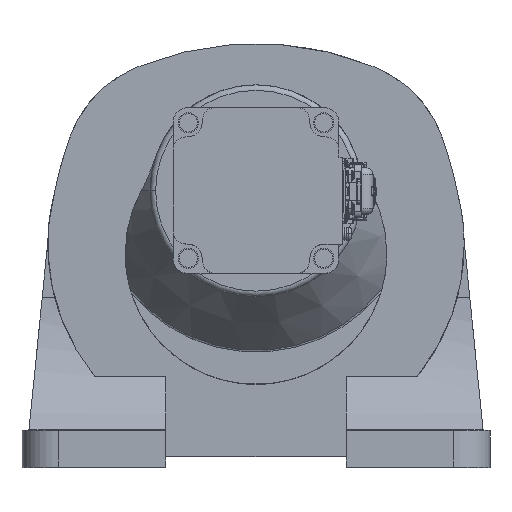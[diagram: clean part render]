
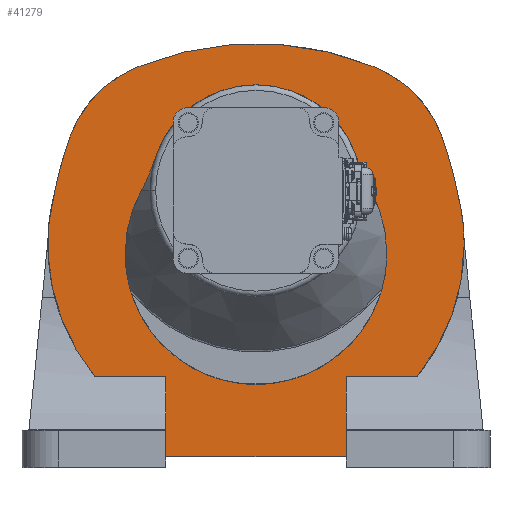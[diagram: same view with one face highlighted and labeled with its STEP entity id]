
A CAD part, top view. The second image highlights one B-rep face of the part: STEP entity #41279.
In plain terms, the highlighted planar face has unit normal (0, 0, 1).
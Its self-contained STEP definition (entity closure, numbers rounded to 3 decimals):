
#257 = DIRECTION ( 'NONE',  ( -1., 0., 0. ) ) ;
#373 = ORIENTED_EDGE ( 'NONE', *, *, #9218, .T. ) ;
#630 = CARTESIAN_POINT ( 'NONE',  ( -48.9, -100.532, -116.5 ) ) ;
#1312 = CARTESIAN_POINT ( 'NONE',  ( 0., 0., -116.5 ) ) ;
#1493 = VERTEX_POINT ( 'NONE', #6262 ) ;
#1562 = FACE_OUTER_BOUND ( 'NONE', #25766, .T. ) ;
#1965 = ORIENTED_EDGE ( 'NONE', *, *, #28401, .T. ) ;
#2927 = VECTOR ( 'NONE', #37896, 1000. ) ;
#2951 = AXIS2_PLACEMENT_3D ( 'NONE', #25792, #4587, #29361 ) ;
#3907 = VERTEX_POINT ( 'NONE', #19858 ) ;
#4041 = LINE ( 'NONE', #20077, #2927 ) ;
#4541 = CARTESIAN_POINT ( 'NONE',  ( 101.56, -42.77, -116.5 ) ) ;
#4587 = DIRECTION ( 'NONE',  ( 0., 0., 1. ) ) ;
#4874 = ORIENTED_EDGE ( 'NONE', *, *, #9944, .F. ) ;
#4968 = CARTESIAN_POINT ( 'NONE',  ( 39.899, 7.124, -116.5 ) ) ;
#5030 = CARTESIAN_POINT ( 'NONE',  ( -124.685, -100.532, -116.5 ) ) ;
#6062 = CIRCLE ( 'NONE', #11906, 113. ) ;
#6262 = CARTESIAN_POINT ( 'NONE',  ( -101.198, 28.745, -116.5 ) ) ;
#6799 = CARTESIAN_POINT ( 'NONE',  ( -87.476, -100.532, -116.5 ) ) ;
#6861 = DIRECTION ( 'NONE',  ( 0., 0., 1. ) ) ;
#6889 = ORIENTED_EDGE ( 'NONE', *, *, #13857, .T. ) ;
#6898 = CARTESIAN_POINT ( 'NONE',  ( -71., -34., -116.5 ) ) ;
#7316 = ORIENTED_EDGE ( 'NONE', *, *, #10072, .F. ) ;
#7397 = DIRECTION ( 'NONE',  ( 0., 0., 1. ) ) ;
#7833 = CIRCLE ( 'NONE', #8601, 170. ) ;
#8058 = DIRECTION ( 'NONE',  ( -1., 0., 0. ) ) ;
#8368 = DIRECTION ( 'NONE',  ( 0., 0., -1. ) ) ;
#8480 = DIRECTION ( 'NONE',  ( -1., 0., 0. ) ) ;
#8548 = DIRECTION ( 'NONE',  ( -1., 0., 0. ) ) ;
#8601 = AXIS2_PLACEMENT_3D ( 'NONE', #31395, #10136, #34980 ) ;
#8878 = AXIS2_PLACEMENT_3D ( 'NONE', #4968, #29741, #8480 ) ;
#9218 = EDGE_CURVE ( 'NONE', #37999, #10238, #31169, .T. ) ;
#9944 = EDGE_CURVE ( 'NONE', #13897, #21331, #28887, .T. ) ;
#10068 = CIRCLE ( 'NONE', #13713, 215. ) ;
#10072 = EDGE_CURVE ( 'NONE', #37607, #42066, #42199, .T. ) ;
#10136 = DIRECTION ( 'NONE',  ( 0., 0., 1. ) ) ;
#10238 = VERTEX_POINT ( 'NONE', #35960 ) ;
#11906 = AXIS2_PLACEMENT_3D ( 'NONE', #13709, #38471, #17285 ) ;
#11912 = CIRCLE ( 'NONE', #2951, 113. ) ;
#11946 = AXIS2_PLACEMENT_3D ( 'NONE', #42705, #21465, #257 ) ;
#12024 = VERTEX_POINT ( 'NONE', #17653 ) ;
#13484 = LINE ( 'NONE', #35422, #31211 ) ;
#13709 = CARTESIAN_POINT ( 'NONE',  ( 0., -29., -116.5 ) ) ;
#13713 = AXIS2_PLACEMENT_3D ( 'NONE', #4541, #29305, #8058 ) ;
#13857 = EDGE_CURVE ( 'NONE', #23633, #1493, #36483, .T. ) ;
#13897 = VERTEX_POINT ( 'NONE', #25199 ) ;
#14658 = CARTESIAN_POINT ( 'NONE',  ( -64.598, 67.249, -116.5 ) ) ;
#14854 = LINE ( 'NONE', #630, #42037 ) ;
#16157 = EDGE_CURVE ( 'NONE', #12024, #38053, #16356, .T. ) ;
#16356 = CIRCLE ( 'NONE', #31696, 113. ) ;
#17131 = DIRECTION ( 'NONE',  ( -1., 0., 0. ) ) ;
#17285 = DIRECTION ( 'NONE',  ( 1., 0., 0. ) ) ;
#17653 = CARTESIAN_POINT ( 'NONE',  ( -108.915, 1.11, -116.5 ) ) ;
#17847 = EDGE_CURVE ( 'NONE', #37079, #32684, #4041, .T. ) ;
#18093 = CARTESIAN_POINT ( 'NONE',  ( -101.56, -42.77, -116.5 ) ) ;
#18149 = CARTESIAN_POINT ( 'NONE',  ( 71., -34., -116.5 ) ) ;
#19835 = LINE ( 'NONE', #41918, #35355 ) ;
#19858 = CARTESIAN_POINT ( 'NONE',  ( 113., -29., -116.5 ) ) ;
#20077 = CARTESIAN_POINT ( 'NONE',  ( 48.9, -144., -116.5 ) ) ;
#20259 = CARTESIAN_POINT ( 'NONE',  ( 48.9, -100.532, -116.5 ) ) ;
#20321 = DIRECTION ( 'NONE',  ( 0., 0., 1. ) ) ;
#20851 = VERTEX_POINT ( 'NONE', #38868 ) ;
#21331 = VERTEX_POINT ( 'NONE', #20259 ) ;
#21465 = DIRECTION ( 'NONE',  ( 0., 0., 1. ) ) ;
#21660 = DIRECTION ( 'NONE',  ( -1., 0., 0. ) ) ;
#22261 = CIRCLE ( 'NONE', #32381, 71. ) ;
#22668 = ORIENTED_EDGE ( 'NONE', *, *, #36946, .T. ) ;
#23633 = VERTEX_POINT ( 'NONE', #14658 ) ;
#25199 = CARTESIAN_POINT ( 'NONE',  ( 87.476, -100.532, -116.5 ) ) ;
#25395 = DIRECTION ( 'NONE',  ( 0., -1., 0. ) ) ;
#25766 = EDGE_LOOP ( 'NONE', ( #40929, #6889, #30718, #36251, #39016, #41977, #38786, #22668, #4874, #40829, #35488, #373, #1965 ) ) ;
#25792 = CARTESIAN_POINT ( 'NONE',  ( 0., -29., -116.5 ) ) ;
#26850 = VERTEX_POINT ( 'NONE', #44666 ) ;
#27770 = VECTOR ( 'NONE', #8548, 1000. ) ;
#28069 = CARTESIAN_POINT ( 'NONE',  ( 0., -34., -116.5 ) ) ;
#28401 = EDGE_CURVE ( 'NONE', #10238, #20851, #43793, .T. ) ;
#28635 = CARTESIAN_POINT ( 'NONE',  ( 0., -29., -116.5 ) ) ;
#28664 = FACE_BOUND ( 'NONE', #40019, .T. ) ;
#28887 = LINE ( 'NONE', #5030, #27770 ) ;
#29033 = EDGE_CURVE ( 'NONE', #3907, #37999, #6062, .T. ) ;
#29051 = CARTESIAN_POINT ( 'NONE',  ( -48.9, -144., -116.5 ) ) ;
#29305 = DIRECTION ( 'NONE',  ( 0., 0., 1. ) ) ;
#29361 = DIRECTION ( 'NONE',  ( 1., 0., 0. ) ) ;
#29741 = DIRECTION ( 'NONE',  ( 0., 0., 1. ) ) ;
#30112 = EDGE_CURVE ( 'NONE', #26850, #38053, #19835, .T. ) ;
#30718 = ORIENTED_EDGE ( 'NONE', *, *, #37700, .T. ) ;
#31169 = CIRCLE ( 'NONE', #37906, 215. ) ;
#31211 = VECTOR ( 'NONE', #42544, 1000. ) ;
#31395 = CARTESIAN_POINT ( 'NONE',  ( 0., -90., -116.5 ) ) ;
#31671 = DIRECTION ( 'NONE',  ( -1., 0., 0. ) ) ;
#31696 = AXIS2_PLACEMENT_3D ( 'NONE', #28635, #7397, #32213 ) ;
#32213 = DIRECTION ( 'NONE',  ( 1., 0., 0. ) ) ;
#32381 = AXIS2_PLACEMENT_3D ( 'NONE', #28069, #6861, #31671 ) ;
#32684 = VERTEX_POINT ( 'NONE', #45818 ) ;
#33201 = DIRECTION ( 'NONE',  ( -1., 0., 0. ) ) ;
#33707 = EDGE_CURVE ( 'NONE', #13897, #3907, #11912, .T. ) ;
#34980 = DIRECTION ( 'NONE',  ( -1., 0., 0. ) ) ;
#35033 = CARTESIAN_POINT ( 'NONE',  ( 108.915, 1.11, -116.5 ) ) ;
#35355 = VECTOR ( 'NONE', #17131, 1000. ) ;
#35422 = CARTESIAN_POINT ( 'NONE',  ( 48.9, -100.532, -116.5 ) ) ;
#35488 = ORIENTED_EDGE ( 'NONE', *, *, #29033, .T. ) ;
#35960 = CARTESIAN_POINT ( 'NONE',  ( 101.198, 28.745, -116.5 ) ) ;
#36069 = EDGE_CURVE ( 'NONE', #20851, #23633, #7833, .T. ) ;
#36218 = EDGE_CURVE ( 'NONE', #42066, #37607, #22261, .T. ) ;
#36251 = ORIENTED_EDGE ( 'NONE', *, *, #16157, .T. ) ;
#36483 = CIRCLE ( 'NONE', #11946, 65. ) ;
#36946 = EDGE_CURVE ( 'NONE', #32684, #21331, #13484, .T. ) ;
#37079 = VERTEX_POINT ( 'NONE', #29051 ) ;
#37607 = VERTEX_POINT ( 'NONE', #18149 ) ;
#37700 = EDGE_CURVE ( 'NONE', #1493, #12024, #10068, .T. ) ;
#37896 = DIRECTION ( 'NONE',  ( 1., 0., 0. ) ) ;
#37906 = AXIS2_PLACEMENT_3D ( 'NONE', #18093, #42891, #21660 ) ;
#37999 = VERTEX_POINT ( 'NONE', #35033 ) ;
#38053 = VERTEX_POINT ( 'NONE', #6799 ) ;
#38471 = DIRECTION ( 'NONE',  ( 0., 0., 1. ) ) ;
#38786 = ORIENTED_EDGE ( 'NONE', *, *, #17847, .T. ) ;
#38868 = CARTESIAN_POINT ( 'NONE',  ( 64.598, 67.249, -116.5 ) ) ;
#39016 = ORIENTED_EDGE ( 'NONE', *, *, #30112, .F. ) ;
#39283 = ORIENTED_EDGE ( 'NONE', *, *, #36218, .F. ) ;
#39628 = AXIS2_PLACEMENT_3D ( 'NONE', #1312, #8368, #33201 ) ;
#40013 = AXIS2_PLACEMENT_3D ( 'NONE', #41564, #20321, #45129 ) ;
#40019 = EDGE_LOOP ( 'NONE', ( #7316, #39283 ) ) ;
#40164 = PLANE ( 'NONE',  #39628 ) ;
#40829 = ORIENTED_EDGE ( 'NONE', *, *, #33707, .T. ) ;
#40929 = ORIENTED_EDGE ( 'NONE', *, *, #36069, .T. ) ;
#41279 = ADVANCED_FACE ( 'NONE', ( #1562, #28664 ), #40164, .F. ) ;
#41564 = CARTESIAN_POINT ( 'NONE',  ( 0., -34., -116.5 ) ) ;
#41788 = EDGE_CURVE ( 'NONE', #26850, #37079, #14854, .T. ) ;
#41918 = CARTESIAN_POINT ( 'NONE',  ( -124.685, -100.532, -116.5 ) ) ;
#41977 = ORIENTED_EDGE ( 'NONE', *, *, #41788, .T. ) ;
#42037 = VECTOR ( 'NONE', #25395, 1000. ) ;
#42066 = VERTEX_POINT ( 'NONE', #6898 ) ;
#42199 = CIRCLE ( 'NONE', #40013, 71. ) ;
#42544 = DIRECTION ( 'NONE',  ( 0., 1., 0. ) ) ;
#42705 = CARTESIAN_POINT ( 'NONE',  ( -39.899, 7.124, -116.5 ) ) ;
#42891 = DIRECTION ( 'NONE',  ( 0., 0., 1. ) ) ;
#43793 = CIRCLE ( 'NONE', #8878, 65. ) ;
#44666 = CARTESIAN_POINT ( 'NONE',  ( -48.9, -100.532, -116.5 ) ) ;
#45129 = DIRECTION ( 'NONE',  ( -1., 0., 0. ) ) ;
#45818 = CARTESIAN_POINT ( 'NONE',  ( 48.9, -144., -116.5 ) ) ;
